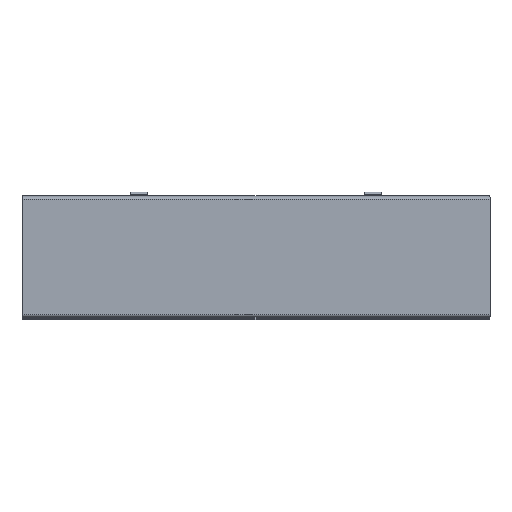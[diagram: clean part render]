
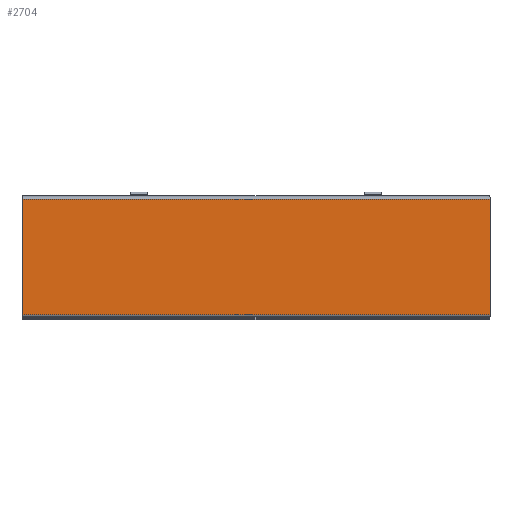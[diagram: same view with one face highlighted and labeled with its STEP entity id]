
A CAD part, front view. The second image highlights one B-rep face of the part: STEP entity #2704.
In plain terms, the highlighted planar face has unit normal (0, -1, 0).
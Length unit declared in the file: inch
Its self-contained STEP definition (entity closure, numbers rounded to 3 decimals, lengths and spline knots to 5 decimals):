
#393 = AXIS2_PLACEMENT_3D ( 'NONE', #5489, #5512, #5514 ) ;
#765 = EDGE_CURVE ( 'NONE', #2946, #2942, #2383, .T. ) ;
#772 = EDGE_CURVE ( 'NONE', #2895, #2942, #2396, .T. ) ;
#779 = EDGE_CURVE ( 'NONE', #2895, #2944, #2409, .T. ) ;
#786 = EDGE_CURVE ( 'NONE', #2946, #2944, #2404, .T. ) ;
#1515 = EDGE_LOOP ( 'NONE', ( #1782, #1783, #1784, #1785 ) ) ;
#1782 = ORIENTED_EDGE ( 'NONE', *, *, #779, .F. ) ;
#1783 = ORIENTED_EDGE ( 'NONE', *, *, #772, .T. ) ;
#1784 = ORIENTED_EDGE ( 'NONE', *, *, #765, .F. ) ;
#1785 = ORIENTED_EDGE ( 'NONE', *, *, #786, .T. ) ;
#2383 = LINE ( 'NONE', #3599, #2384 ) ;
#2384 = VECTOR ( 'NONE', #3600, 39.37008 ) ;
#2386 = VECTOR ( 'NONE', #3616, 39.37008 ) ;
#2395 = VECTOR ( 'NONE', #3646, 39.37008 ) ;
#2396 = LINE ( 'NONE', #3603, #2386 ) ;
#2404 = LINE ( 'NONE', #3645, #2395 ) ;
#2409 = LINE ( 'NONE', #3630, #2410 ) ;
#2410 = VECTOR ( 'NONE', #3631, 39.37008 ) ;
#2704 = ADVANCED_FACE ( 'NONE', ( #5142 ), #5494, .T. ) ;
#2895 = VERTEX_POINT ( 'NONE', #5633 ) ;
#2942 = VERTEX_POINT ( 'NONE', #5677 ) ;
#2944 = VERTEX_POINT ( 'NONE', #5679 ) ;
#2946 = VERTEX_POINT ( 'NONE', #5681 ) ;
#3599 = CARTESIAN_POINT ( 'NONE',  ( 12., -0.055, 3.075 ) ) ;
#3600 = DIRECTION ( 'NONE',  ( 0., 0., -1. ) ) ;
#3603 = CARTESIAN_POINT ( 'NONE',  ( -12., -0.055, -2.96 ) ) ;
#3616 = DIRECTION ( 'NONE',  ( 1., 0., 0. ) ) ;
#3630 = CARTESIAN_POINT ( 'NONE',  ( -12., -0.055, 3.075 ) ) ;
#3631 = DIRECTION ( 'NONE',  ( 0., 0., 1. ) ) ;
#3645 = CARTESIAN_POINT ( 'NONE',  ( 12., -0.055, 2.96 ) ) ;
#3646 = DIRECTION ( 'NONE',  ( -1., 0., 0. ) ) ;
#5142 = FACE_OUTER_BOUND ( 'NONE', #1515, .T. ) ;
#5489 = CARTESIAN_POINT ( 'NONE',  ( -12., -0.055, -3.075 ) ) ;
#5494 = PLANE ( 'NONE',  #393 ) ;
#5512 = DIRECTION ( 'NONE',  ( 0., -1., 0. ) ) ;
#5514 = DIRECTION ( 'NONE',  ( 0., 0., -1. ) ) ;
#5633 = CARTESIAN_POINT ( 'NONE',  ( -12., -0.055, -2.96 ) ) ;
#5677 = CARTESIAN_POINT ( 'NONE',  ( 12., -0.055, -2.96 ) ) ;
#5679 = CARTESIAN_POINT ( 'NONE',  ( -12., -0.055, 2.96 ) ) ;
#5681 = CARTESIAN_POINT ( 'NONE',  ( 12., -0.055, 2.96 ) ) ;
